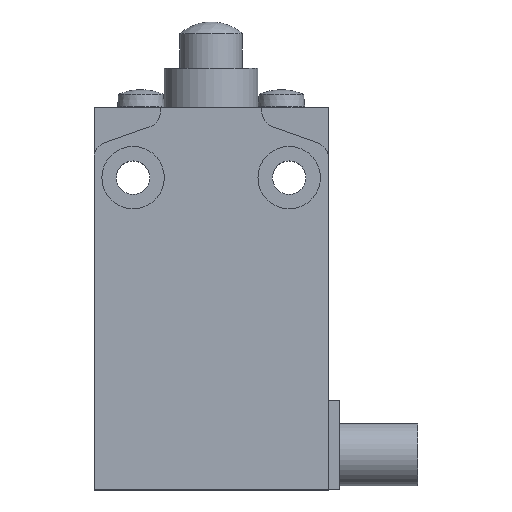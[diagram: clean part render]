
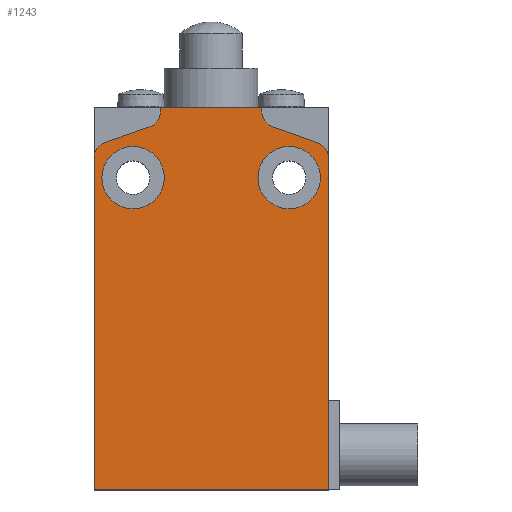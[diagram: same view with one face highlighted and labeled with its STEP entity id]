
A CAD part, top view. The second image highlights one B-rep face of the part: STEP entity #1243.
In plain terms, the highlighted planar face has unit normal (0, 0, 1).
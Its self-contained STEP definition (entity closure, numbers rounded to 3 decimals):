
#195=CARTESIAN_POINT('',(-6.5,49.,8.0));
#196=VERTEX_POINT('',#195);
#203=CARTESIAN_POINT('',(6.5,49.,8.0));
#204=VERTEX_POINT('',#203);
#205=CARTESIAN_POINT('',(-6.5,49.,8.0));
#206=DIRECTION('',(1.0,0.0,0.0));
#207=VECTOR('',#206,13.0);
#208=LINE('',#205,#207);
#209=EDGE_CURVE('',#196,#204,#208,.T.);
#537=CARTESIAN_POINT('',(15.,42.585,8.0));
#538=VERTEX_POINT('',#537);
#545=CARTESIAN_POINT('',(15.,0.,8.0));
#546=VERTEX_POINT('',#545);
#547=CARTESIAN_POINT('',(15.,42.585,8.0));
#548=DIRECTION('',(0.0,-1.0,0.0));
#549=VECTOR('',#548,42.585);
#550=LINE('',#547,#549);
#551=EDGE_CURVE('',#538,#546,#550,.T.);
#606=CARTESIAN_POINT('',(-6.5,48.415,8.0));
#607=VERTEX_POINT('',#606);
#614=CARTESIAN_POINT('',(-6.5,48.415,8.0));
#615=DIRECTION('',(0.0,1.0,0.0));
#616=VECTOR('',#615,0.585);
#617=LINE('',#614,#616);
#618=EDGE_CURVE('',#607,#196,#617,.T.);
#638=CARTESIAN_POINT('',(-7.834,46.529,8.0));
#639=VERTEX_POINT('',#638);
#646=CARTESIAN_POINT('',(-8.5,48.415,8.0));
#647=DIRECTION('',(0.0,0.0,1.0));
#648=DIRECTION('',(-0.333,0.943,0.0));
#649=AXIS2_PLACEMENT_3D('',#646,#647,#648);
#650=CIRCLE('',#649,2.);
#651=EDGE_CURVE('',#639,#607,#650,.T.);
#701=CARTESIAN_POINT('',(-13.666,44.471,8.0));
#702=VERTEX_POINT('',#701);
#709=CARTESIAN_POINT('',(-13.666,44.471,8.0));
#710=DIRECTION('',(0.943,0.333,0.0));
#711=VECTOR('',#710,6.184);
#712=LINE('',#709,#711);
#713=EDGE_CURVE('',#702,#639,#712,.T.);
#766=CARTESIAN_POINT('',(-15.,42.585,8.0));
#767=VERTEX_POINT('',#766);
#774=CARTESIAN_POINT('',(-13.,42.585,8.0));
#775=DIRECTION('',(0.0,0.0,-1.0));
#776=DIRECTION('',(-0.333,0.943,0.0));
#777=AXIS2_PLACEMENT_3D('',#774,#775,#776);
#778=CIRCLE('',#777,2.0);
#779=EDGE_CURVE('',#767,#702,#778,.T.);
#845=CARTESIAN_POINT('',(-6.,40.,8.0));
#846=VERTEX_POINT('',#845);
#847=CARTESIAN_POINT('',(-10.0,40.,8.0));
#848=DIRECTION('',(0.0,0.0,-1.0));
#849=DIRECTION('',(-1.0,0.0,0.0));
#850=AXIS2_PLACEMENT_3D('',#847,#848,#849);
#851=CIRCLE('',#850,4.);
#852=EDGE_CURVE('',#846,#846,#851,.T.);
#901=CARTESIAN_POINT('',(14.,40.,8.0));
#902=VERTEX_POINT('',#901);
#903=CARTESIAN_POINT('',(10.,40.,8.0));
#904=DIRECTION('',(0.0,0.0,-1.0));
#905=DIRECTION('',(-1.0,0.0,0.0));
#906=AXIS2_PLACEMENT_3D('',#903,#904,#905);
#907=CIRCLE('',#906,4.0);
#908=EDGE_CURVE('',#902,#902,#907,.T.);
#1101=CARTESIAN_POINT('',(6.5,48.415,8.0));
#1102=VERTEX_POINT('',#1101);
#1103=CARTESIAN_POINT('',(6.5,49.,8.0));
#1104=DIRECTION('',(0.0,-1.0,0.0));
#1105=VECTOR('',#1104,0.585);
#1106=LINE('',#1103,#1105);
#1107=EDGE_CURVE('',#204,#1102,#1106,.T.);
#1133=CARTESIAN_POINT('',(7.834,46.529,8.0));
#1134=VERTEX_POINT('',#1133);
#1135=CARTESIAN_POINT('',(8.5,48.415,8.0));
#1136=DIRECTION('',(0.0,0.0,1.0));
#1137=DIRECTION('',(1.0,0.0,0.0));
#1138=AXIS2_PLACEMENT_3D('',#1135,#1136,#1137);
#1139=CIRCLE('',#1138,2.);
#1140=EDGE_CURVE('',#1102,#1134,#1139,.T.);
#1165=CARTESIAN_POINT('',(13.666,44.471,8.0));
#1166=VERTEX_POINT('',#1165);
#1167=CARTESIAN_POINT('',(7.834,46.529,8.0));
#1168=DIRECTION('',(0.943,-0.333,0.0));
#1169=VECTOR('',#1168,6.184);
#1170=LINE('',#1167,#1169);
#1171=EDGE_CURVE('',#1134,#1166,#1170,.T.);
#1195=CARTESIAN_POINT('',(13.,42.585,8.0));
#1196=DIRECTION('',(0.0,0.0,-1.0));
#1197=DIRECTION('',(1.0,0.0,0.0));
#1198=AXIS2_PLACEMENT_3D('',#1195,#1196,#1197);
#1199=CIRCLE('',#1198,2.0);
#1200=EDGE_CURVE('',#1166,#538,#1199,.T.);
#1206=CARTESIAN_POINT('',(0.,23.215,8.0));
#1207=DIRECTION('',(0.0,0.0,1.0));
#1208=DIRECTION('',(1.0,0.0,0.0));
#1209=AXIS2_PLACEMENT_3D('',#1206,#1207,#1208);
#1210=PLANE('',#1209);
#1211=CARTESIAN_POINT('',(-15.,0.,8.0));
#1212=VERTEX_POINT('',#1211);
#1213=CARTESIAN_POINT('',(-15.,0.0,8.0));
#1214=DIRECTION('',(0.0,1.0,0.0));
#1215=VECTOR('',#1214,42.585);
#1216=LINE('',#1213,#1215);
#1217=EDGE_CURVE('',#1212,#767,#1216,.T.);
#1218=ORIENTED_EDGE('',*,*,#1217,.F.);
#1219=CARTESIAN_POINT('',(15.,0.,8.0));
#1220=DIRECTION('',(-1.0,0.0,0.0));
#1221=VECTOR('',#1220,30.);
#1222=LINE('',#1219,#1221);
#1223=EDGE_CURVE('',#546,#1212,#1222,.T.);
#1224=ORIENTED_EDGE('',*,*,#1223,.F.);
#1225=ORIENTED_EDGE('',*,*,#551,.F.);
#1226=ORIENTED_EDGE('',*,*,#1200,.F.);
#1227=ORIENTED_EDGE('',*,*,#1171,.F.);
#1228=ORIENTED_EDGE('',*,*,#1140,.F.);
#1229=ORIENTED_EDGE('',*,*,#1107,.F.);
#1230=ORIENTED_EDGE('',*,*,#209,.F.);
#1231=ORIENTED_EDGE('',*,*,#618,.F.);
#1232=ORIENTED_EDGE('',*,*,#651,.F.);
#1233=ORIENTED_EDGE('',*,*,#713,.F.);
#1234=ORIENTED_EDGE('',*,*,#779,.F.);
#1235=EDGE_LOOP('',(#1218,#1224,#1225,#1226,#1227,#1228,#1229,#1230,#1231,#1232,#1233,#1234));
#1236=FACE_OUTER_BOUND('',#1235,.T.);
#1237=ORIENTED_EDGE('',*,*,#852,.T.);
#1238=EDGE_LOOP('',(#1237));
#1239=FACE_BOUND('',#1238,.T.);
#1240=ORIENTED_EDGE('',*,*,#908,.T.);
#1241=EDGE_LOOP('',(#1240));
#1242=FACE_BOUND('',#1241,.T.);
#1243=ADVANCED_FACE('',(#1236,#1239,#1242),#1210,.T.);
